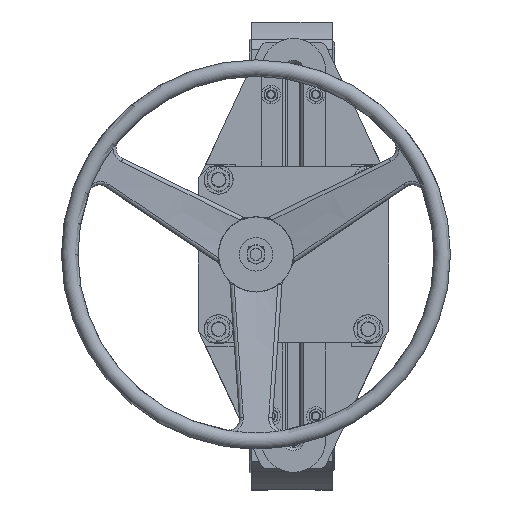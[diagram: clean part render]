
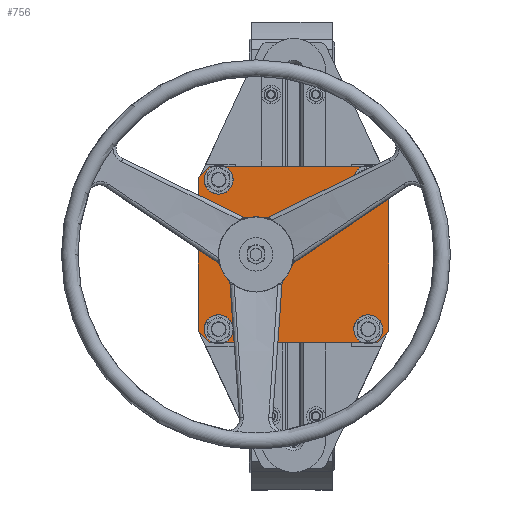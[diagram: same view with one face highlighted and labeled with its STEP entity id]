
A CAD part, top view. The second image highlights one B-rep face of the part: STEP entity #756.
In plain terms, the highlighted planar face has unit normal (0, 0, 1).
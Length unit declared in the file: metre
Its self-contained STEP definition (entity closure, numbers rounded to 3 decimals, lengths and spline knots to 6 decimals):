
#756=ADVANCED_FACE('',(#3002,#3003,#3004,#3005),#3006,.T.);
#3002=FACE_OUTER_BOUND('',#6380,.T.);
#3003=FACE_BOUND('',#6381,.T.);
#3004=FACE_BOUND('',#6382,.T.);
#3005=FACE_BOUND('',#6383,.T.);
#3006=PLANE('',#6384);
#6380=EDGE_LOOP('',(#19942,#19943,#19944,#19945,#19946,#19947,#19948,#19949,#19950,#19951,#19952,#19953,#19954,#19955,#19956,#19957));
#6381=EDGE_LOOP('',(#19958));
#6382=EDGE_LOOP('',(#19959));
#6383=EDGE_LOOP('',(#19960));
#6384=AXIS2_PLACEMENT_3D('',#19961,#19962,#19963);
#19942=ORIENTED_EDGE('',*,*,#25116,.F.);
#19943=ORIENTED_EDGE('',*,*,#26815,.T.);
#19944=ORIENTED_EDGE('',*,*,#25190,.F.);
#19945=ORIENTED_EDGE('',*,*,#26816,.T.);
#19946=ORIENTED_EDGE('',*,*,#26817,.T.);
#19947=ORIENTED_EDGE('',*,*,#26818,.T.);
#19948=ORIENTED_EDGE('',*,*,#26819,.T.);
#19949=ORIENTED_EDGE('',*,*,#26820,.T.);
#19950=ORIENTED_EDGE('',*,*,#25222,.F.);
#19951=ORIENTED_EDGE('',*,*,#26821,.T.);
#19952=ORIENTED_EDGE('',*,*,#25158,.F.);
#19953=ORIENTED_EDGE('',*,*,#26822,.T.);
#19954=ORIENTED_EDGE('',*,*,#26823,.T.);
#19955=ORIENTED_EDGE('',*,*,#26824,.T.);
#19956=ORIENTED_EDGE('',*,*,#26825,.T.);
#19957=ORIENTED_EDGE('',*,*,#26826,.T.);
#19958=ORIENTED_EDGE('',*,*,#26827,.T.);
#19959=ORIENTED_EDGE('',*,*,#26828,.T.);
#19960=ORIENTED_EDGE('',*,*,#26829,.F.);
#19961=CARTESIAN_POINT('',(0.1275,-0.1175,1.165));
#19962=DIRECTION('',(0.,0.,1.));
#19963=DIRECTION('',(0.,1.,0.));
#25116=EDGE_CURVE('',#28942,#28941,#28945,.T.);
#25158=EDGE_CURVE('',#29016,#29017,#29018,.T.);
#25190=EDGE_CURVE('',#29072,#29073,#29074,.T.);
#25222=EDGE_CURVE('',#29128,#29129,#29130,.T.);
#26815=EDGE_CURVE('',#28942,#29073,#31926,.T.);
#26816=EDGE_CURVE('',#29072,#31927,#31928,.T.);
#26817=EDGE_CURVE('',#31927,#31929,#31930,.F.);
#26818=EDGE_CURVE('',#31929,#31931,#31932,.T.);
#26819=EDGE_CURVE('',#31931,#31933,#31934,.F.);
#26820=EDGE_CURVE('',#31933,#29129,#31935,.T.);
#26821=EDGE_CURVE('',#29128,#29017,#31936,.T.);
#26822=EDGE_CURVE('',#29016,#31937,#31938,.T.);
#26823=EDGE_CURVE('',#31937,#31939,#31940,.F.);
#26824=EDGE_CURVE('',#31939,#31941,#31942,.T.);
#26825=EDGE_CURVE('',#31941,#31943,#31944,.F.);
#26826=EDGE_CURVE('',#31943,#28941,#31945,.T.);
#26827=EDGE_CURVE('',#31946,#31946,#31947,.T.);
#26828=EDGE_CURVE('',#31948,#31948,#31949,.T.);
#26829=EDGE_CURVE('',#31950,#31950,#31951,.T.);
#28941=VERTEX_POINT('',#34436);
#28942=VERTEX_POINT('',#34437);
#28945=CIRCLE('',#34441,0.019345);
#29016=VERTEX_POINT('',#34691);
#29017=VERTEX_POINT('',#34692);
#29018=CIRCLE('',#34693,0.019345);
#29072=VERTEX_POINT('',#34875);
#29073=VERTEX_POINT('',#34876);
#29074=CIRCLE('',#34877,0.019345);
#29128=VERTEX_POINT('',#35059);
#29129=VERTEX_POINT('',#35060);
#29130=CIRCLE('',#35061,0.019345);
#31926=LINE('',#41482,#41483);
#31927=VERTEX_POINT('',#41484);
#31928=LINE('',#41485,#41486);
#31929=VERTEX_POINT('',#41487);
#31930=LINE('',#41488,#41489);
#31931=VERTEX_POINT('',#41490);
#31932=LINE('',#41491,#41492);
#31933=VERTEX_POINT('',#41493);
#31934=LINE('',#41494,#41495);
#31935=LINE('',#41496,#41497);
#31936=LINE('',#41498,#41499);
#31937=VERTEX_POINT('',#41500);
#31938=LINE('',#41501,#41502);
#31939=VERTEX_POINT('',#41503);
#31940=LINE('',#41504,#41505);
#31941=VERTEX_POINT('',#41506);
#31942=LINE('',#41507,#41508);
#31943=VERTEX_POINT('',#41509);
#31944=LINE('',#41510,#41511);
#31945=LINE('',#41512,#41513);
#31946=VERTEX_POINT('',#41514);
#31947=CIRCLE('',#41515,0.00425);
#31948=VERTEX_POINT('',#41516);
#31949=CIRCLE('',#41517,0.00425);
#31950=VERTEX_POINT('',#41518);
#31951=CIRCLE('',#41519,0.033);
#34436=CARTESIAN_POINT('',(-0.108245,-0.1175,1.165));
#34437=CARTESIAN_POINT('',(-0.091755,-0.1175,1.165));
#34441=AXIS2_PLACEMENT_3D('',#48365,#48366,#48367);
#34691=CARTESIAN_POINT('',(-0.108245,0.1175,1.165));
#34692=CARTESIAN_POINT('',(-0.091755,0.1175,1.165));
#34693=AXIS2_PLACEMENT_3D('',#48398,#48399,#48400);
#34875=CARTESIAN_POINT('',(0.108245,-0.1175,1.165));
#34876=CARTESIAN_POINT('',(0.091755,-0.1175,1.165));
#34877=AXIS2_PLACEMENT_3D('',#48427,#48428,#48429);
#35059=CARTESIAN_POINT('',(0.091755,0.1175,1.165));
#35060=CARTESIAN_POINT('',(0.108245,0.1175,1.165));
#35061=AXIS2_PLACEMENT_3D('',#48456,#48457,#48458);
#41482=CARTESIAN_POINT('',(-0.1275,-0.1175,1.165));
#41483=VECTOR('',#50931,1.);
#41484=CARTESIAN_POINT('',(0.1125,-0.1175,1.165));
#41485=CARTESIAN_POINT('',(-0.1275,-0.1175,1.165));
#41486=VECTOR('',#50932,1.);
#41487=CARTESIAN_POINT('',(0.1275,-0.1025,1.165));
#41488=CARTESIAN_POINT('',(0.12,-0.11,1.165));
#41489=VECTOR('',#50933,1.);
#41490=CARTESIAN_POINT('',(0.1275,0.1025,1.165));
#41491=CARTESIAN_POINT('',(0.1275,-0.1175,1.165));
#41492=VECTOR('',#50934,1.);
#41493=CARTESIAN_POINT('',(0.1125,0.1175,1.165));
#41494=CARTESIAN_POINT('',(0.2375,-0.0075,1.165));
#41495=VECTOR('',#50935,1.);
#41496=CARTESIAN_POINT('',(0.1275,0.1175,1.165));
#41497=VECTOR('',#50936,1.);
#41498=CARTESIAN_POINT('',(0.1275,0.1175,1.165));
#41499=VECTOR('',#50937,1.);
#41500=CARTESIAN_POINT('',(-0.1125,0.1175,1.165));
#41501=CARTESIAN_POINT('',(0.1275,0.1175,1.165));
#41502=VECTOR('',#50938,1.);
#41503=CARTESIAN_POINT('',(-0.1275,0.1025,1.165));
#41504=CARTESIAN_POINT('',(-0.11,0.12,1.165));
#41505=VECTOR('',#50939,1.);
#41506=CARTESIAN_POINT('',(-0.1275,-0.1025,1.165));
#41507=CARTESIAN_POINT('',(-0.1275,0.1175,1.165));
#41508=VECTOR('',#50940,1.);
#41509=CARTESIAN_POINT('',(-0.1125,-0.1175,1.165));
#41510=CARTESIAN_POINT('',(0.0075,-0.2375,1.165));
#41511=VECTOR('',#50941,1.);
#41512=CARTESIAN_POINT('',(-0.1275,-0.1175,1.165));
#41513=VECTOR('',#50942,1.);
#41514=CARTESIAN_POINT('',(-0.04575,0.047,1.165));
#41515=AXIS2_PLACEMENT_3D('',#50943,#50944,#50945);
#41516=CARTESIAN_POINT('',(-0.04575,-0.047,1.165));
#41517=AXIS2_PLACEMENT_3D('',#50946,#50947,#50948);
#41518=CARTESIAN_POINT('',(-0.083,0.,1.165));
#41519=AXIS2_PLACEMENT_3D('',#50949,#50950,#50951);
#48365=CARTESIAN_POINT('',(-0.1,-0.1,1.165));
#48366=DIRECTION('',(0.,0.,1.));
#48367=DIRECTION('',(1.,0.,0.));
#48398=CARTESIAN_POINT('',(-0.1,0.1,1.165));
#48399=DIRECTION('',(0.,0.,1.));
#48400=DIRECTION('',(1.,0.,0.));
#48427=CARTESIAN_POINT('',(0.1,-0.1,1.165));
#48428=DIRECTION('',(0.,0.,1.));
#48429=DIRECTION('',(1.,0.,0.));
#48456=CARTESIAN_POINT('',(0.1,0.1,1.165));
#48457=DIRECTION('',(0.,0.,1.));
#48458=DIRECTION('',(1.,0.,0.));
#50931=DIRECTION('',(1.,0.,0.));
#50932=DIRECTION('',(1.,0.,0.));
#50933=DIRECTION('',(-0.707,-0.707,0.));
#50934=DIRECTION('',(0.,1.,0.));
#50935=DIRECTION('',(0.707,-0.707,0.));
#50936=DIRECTION('',(-1.,0.,0.));
#50937=DIRECTION('',(-1.,0.,0.));
#50938=DIRECTION('',(-1.,0.,0.));
#50939=DIRECTION('',(0.707,0.707,0.));
#50940=DIRECTION('',(0.,-1.,0.));
#50941=DIRECTION('',(-0.707,0.707,0.));
#50942=DIRECTION('',(1.,0.,0.));
#50943=CARTESIAN_POINT('',(-0.05,0.047,1.165));
#50944=DIRECTION('',(0.,0.,-1.));
#50945=DIRECTION('',(1.,0.,0.));
#50946=CARTESIAN_POINT('',(-0.05,-0.047,1.165));
#50947=DIRECTION('',(0.,0.,-1.));
#50948=DIRECTION('',(1.,0.,0.));
#50949=CARTESIAN_POINT('',(-0.05,0.,1.165));
#50950=DIRECTION('',(0.,0.,1.));
#50951=DIRECTION('',(-1.,0.,0.));
